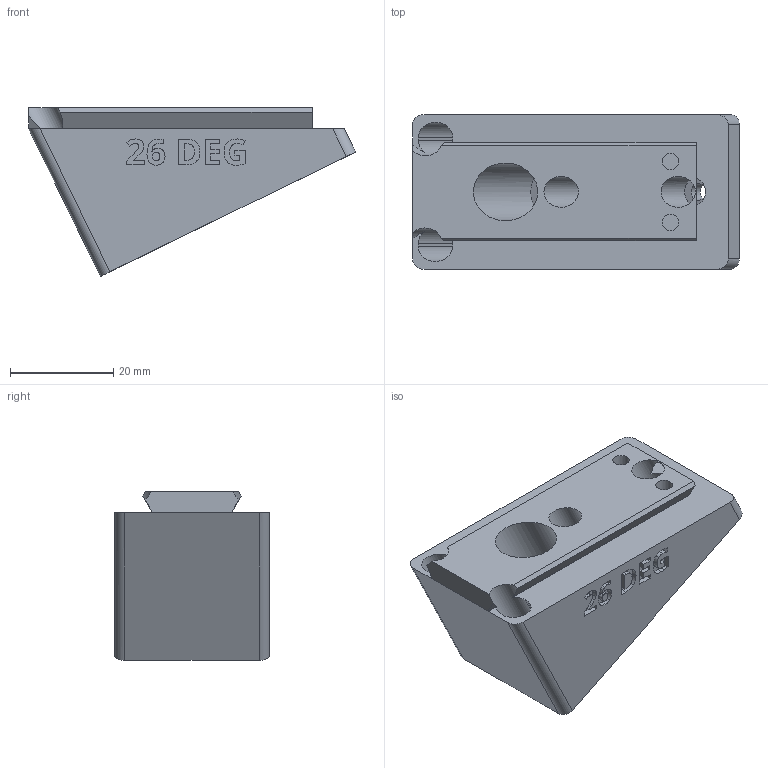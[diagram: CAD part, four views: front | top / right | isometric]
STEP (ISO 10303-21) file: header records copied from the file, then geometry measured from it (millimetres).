
FILE_DESCRIPTION(/* description */ ('STEP AP242 Edition 2','CAx-IF Rec.Pracs.---Representation and Presentation of Product Manufacturing Information (PMI)---4.0---2014-10-13','CAx-IF Rec.Pracs.---3D Tessellated Geometry---0.4---2014-09-14','2;1','CAx-IF Rec.Pracs.---User Defined Attributes---1.5---2016-08-15'),/* implementation_level */ '2;1');
FILE_NAME(/* name */ 'Camera Wedges - CAMERA MOUNTING WEDGE, POS, 26 DEG',/* time_stamp */ '2026-07-08T20:38:56Z',/* author */ (''),/* organization */ (''),/* preprocessor_version */ 'ST-DEVELOPER v20',/* originating_system */ 'ONSHAPE BY PTC INC, 1.217',/* authorisation */ ' ');
FILE_SCHEMA (('AP242_MANAGED_MODEL_BASED_3D_ENGINEERING_MIM_LF { 1 0 10303 442 3 1 4 }'));
Length unit declared in the file: metre
Products named in the file (1): CAMERA MOUNTING WEDGE, POS, 26 DEG
Bounding box: 63.38 x 30 x 32.7 mm (x, y, z)
Volume: 28246.5 mm3; surface area: 10188.2 mm2
Topology: 1 solids, 1 shells, 273 faces, 757 edges, 505 vertices
Faces by surface type: plane 131, bspline 84, cylinder 58
Full cylindrical faces by diameter (mm): 3.2 x4, 6 x2, 6.4 x1, 11.2 x1
Entity records: 8984 total; most frequent: CARTESIAN_POINT 2446, ORIENTED_EDGE 1492, DIRECTION 1088, EDGE_CURVE 746, VERTEX_POINT 502, LINE 448, VECTOR 448, AXIS2_PLACEMENT_3D 320
